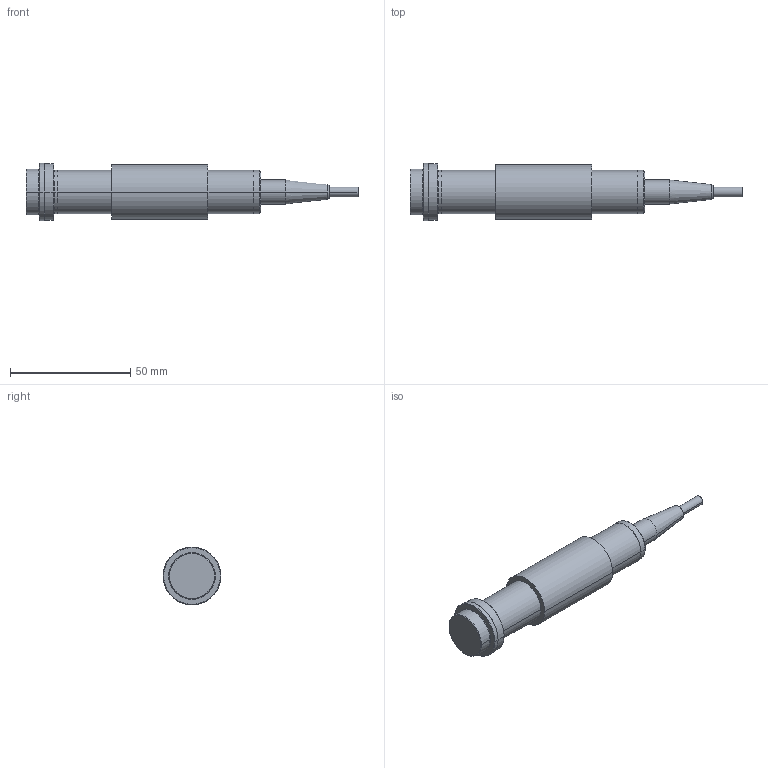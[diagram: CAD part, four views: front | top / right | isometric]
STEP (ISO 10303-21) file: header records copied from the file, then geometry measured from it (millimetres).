
FILE_DESCRIPTION(('STEP AP214'),'1');
FILE_NAME('burster_8106-100_ke3zzs84vexei5eyc3yeai7b.stp','2017-04-19T14:13:43',('TraceParts'),('TraceParts S.A.'),'Spatial InterOp 3D',' ',' ');
FILE_SCHEMA(('automotive_design'));
Length unit declared in the file: millimetre
Products named in the file (1): burster_8106-100_ke3zzs84vexei5eyc3yeai7b
Bounding box: 138 x 24 x 24 mm (x, y, z)
Volume: 33698.1 mm3; surface area: 8256.3 mm2
Topology: 1 solids, 3 shells, 63 faces, 126 edges, 76 vertices
Faces by surface type: cylinder 26, cone 22, plane 11, torus 4
Entity records: 2230 total; most frequent: CARTESIAN_POINT 336, DIRECTION 326, ORIENTED_EDGE 252, AXIS2_PLACEMENT_3D 140, EDGE_CURVE 126, VERTEX_POINT 76, CIRCLE 76, EDGE_LOOP 70
